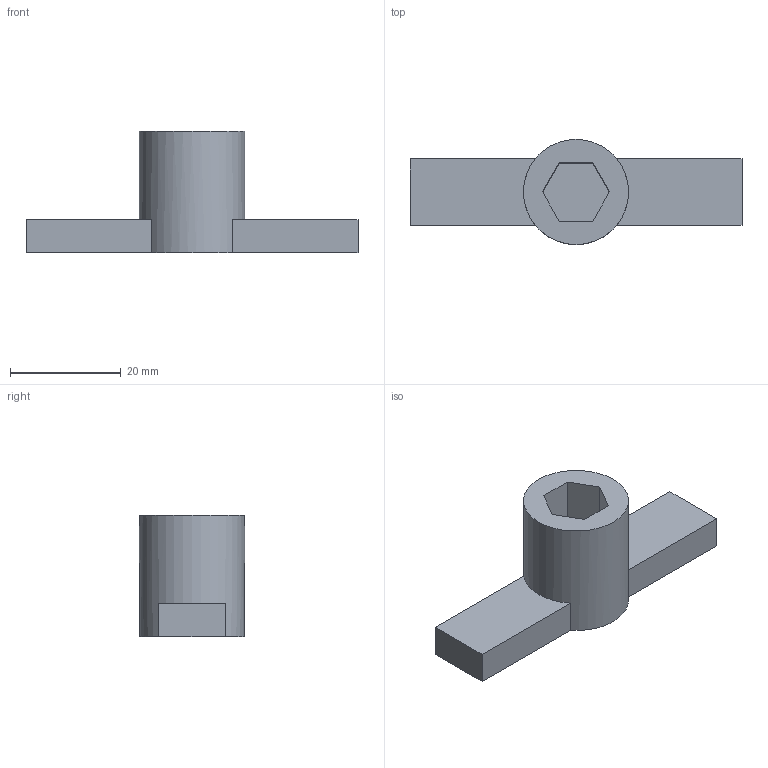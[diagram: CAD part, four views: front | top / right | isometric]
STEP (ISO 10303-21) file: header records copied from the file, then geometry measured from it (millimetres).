
FILE_DESCRIPTION(('Open CASCADE Model'),'2;1');
FILE_NAME('Open CASCADE Shape Model','2026-10-12T22:10:19',('Author'),( 'Open CASCADE'),'Open CASCADE STEP processor 7.9','Open CASCADE 7.9' ,'Unknown');
FILE_SCHEMA(('AUTOMOTIVE_DESIGN { 1 0 10303 214 1 1 1 1 }'));
Length unit declared in the file: millimetre
Products named in the file (1): Open CASCADE STEP translator 7.9 34
Bounding box: 60 x 19 x 22 mm (x, y, z)
Volume: 8045.8 mm3; surface area: 3900.9 mm2
Topology: 1 solids, 1 shells, 18 faces, 45 edges, 30 vertices
Faces by surface type: plane 17, cylinder 1
Full cylindrical faces by diameter (mm): 19 x1
Entity records: 1130 total; most frequent: CARTESIAN_POINT 184, DIRECTION 179, LINE 123, VECTOR 123, ORIENTED_EDGE 90, PCURVE 90, DEFINITIONAL_REPRESENTATION 90, EDGE_CURVE 45
